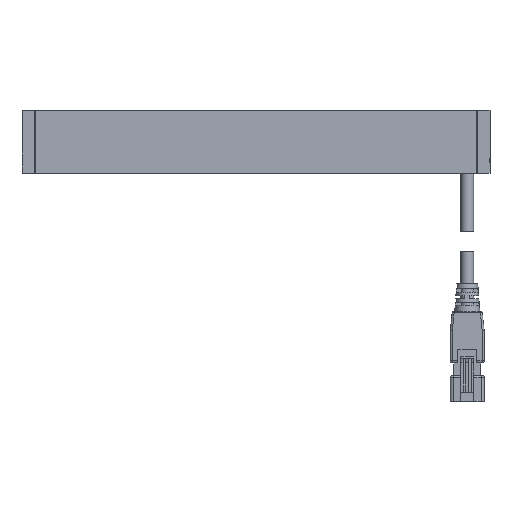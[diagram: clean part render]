
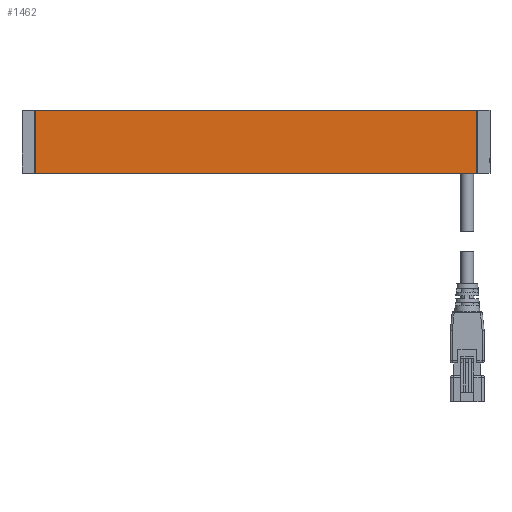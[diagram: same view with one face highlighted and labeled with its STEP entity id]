
A CAD part, front view. The second image highlights one B-rep face of the part: STEP entity #1462.
In plain terms, the highlighted planar face has unit normal (0, -1, 0).
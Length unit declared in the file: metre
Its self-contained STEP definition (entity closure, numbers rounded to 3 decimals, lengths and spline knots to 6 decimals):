
#1462=ADVANCED_FACE('7:25420',(#3666),#3667,.T.);
#3666=FACE_OUTER_BOUND('',#6308,.T.);
#3667=PLANE('',#6309);
#6308=EDGE_LOOP('',(#11753,#11754,#11755,#11756));
#6309=AXIS2_PLACEMENT_3D('',#11757,#11758,#11759);
#11753=ORIENTED_EDGE('',*,*,#14736,.T.);
#11754=ORIENTED_EDGE('',*,*,#14184,.F.);
#11755=ORIENTED_EDGE('',*,*,#14737,.T.);
#11756=ORIENTED_EDGE('',*,*,#14730,.F.);
#11757=CARTESIAN_POINT('',(0.,-0.02875,0.02895));
#11758=DIRECTION('',(0.0,-1.0,0.));
#11759=DIRECTION('',(0.,0.,-1.0));
#14184=EDGE_CURVE('7:26761',#15290,#15292,#15293,.T.);
#14730=EDGE_CURVE('7:26329',#16089,#16091,#16092,.T.);
#14736=EDGE_CURVE('7:26317',#16089,#15292,#16098,.T.);
#14737=EDGE_CURVE('7:26314',#15290,#16091,#16099,.T.);
#15290=VERTEX_POINT('',#16910);
#15292=VERTEX_POINT('',#16913);
#15293=LINE('',#16914,#16915);
#16089=VERTEX_POINT('',#18097);
#16091=VERTEX_POINT('',#18100);
#16092=LINE('',#18101,#18102);
#16098=LINE('',#18111,#18112);
#16099=LINE('',#18113,#18114);
#16910=CARTESIAN_POINT('',(0.068,-0.02875,0.01925));
#16913=CARTESIAN_POINT('',(-0.068,-0.02875,0.01925));
#16914=CARTESIAN_POINT('',(0.113,-0.02875,0.01925));
#16915=VECTOR('',#18554,1.0);
#18097=CARTESIAN_POINT('',(-0.068,-0.02875,0.03875));
#18100=CARTESIAN_POINT('',(0.068,-0.02875,0.03875));
#18101=CARTESIAN_POINT('',(-0.068,-0.02875,0.03875));
#18102=VECTOR('',#19181,1.0);
#18111=CARTESIAN_POINT('',(-0.068,-0.02875,0.03865));
#18112=VECTOR('',#19185,1.0);
#18113=CARTESIAN_POINT('',(0.068,-0.02875,0.02895));
#18114=VECTOR('',#19186,1.0);
#18554=DIRECTION('',(-1.0,0.0,0.0));
#19181=DIRECTION('',(1.0,0.0,0.));
#19185=DIRECTION('',(0.,0.0,-1.0));
#19186=DIRECTION('',(0.,0.,1.0));
